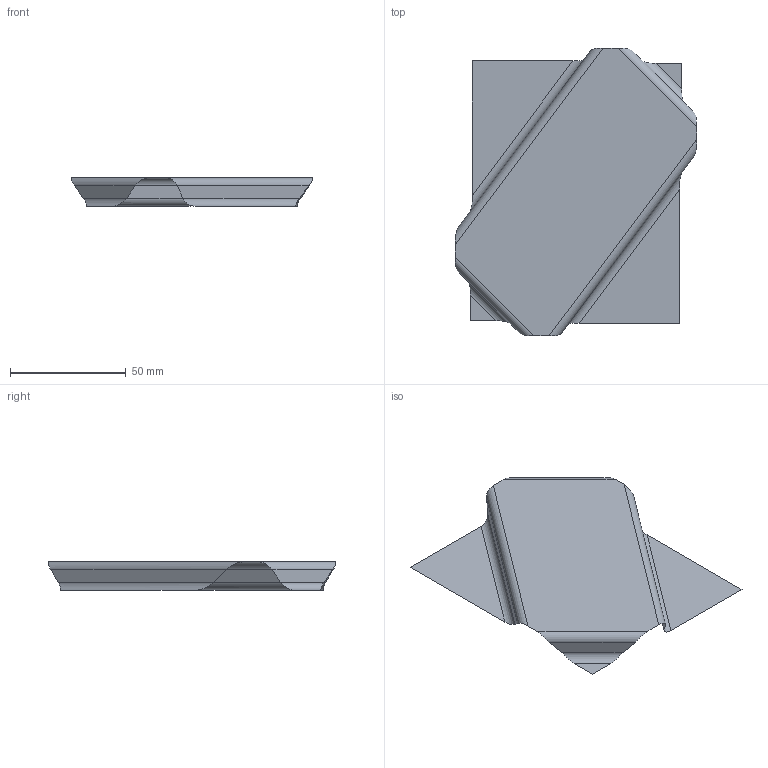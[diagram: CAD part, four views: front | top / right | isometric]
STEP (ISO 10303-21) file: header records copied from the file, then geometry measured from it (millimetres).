
FILE_DESCRIPTION(('CATIA V5 STEP Exchange'),'2;1');
FILE_NAME('C:\_Andres\UNIVERSIDAD\IQS\ASIGNATURAS\DAO\EXF\EXF-15161c\1original\Mas_Oliver_Ej03-chapa_v14.stp','2016-03-04T16:55:56+00:00',('none'),('none'),'CATIA Version 5 Release 20 SP 1 (IN-10)','CATIA V5 STEP AP203','none');
FILE_SCHEMA(('CONFIG_CONTROL_DESIGN'));
Length unit declared in the file: millimetre
Products named in the file (1): Mas_Oliver_Ej03-chapa_v14
Bounding box: 104.01 x 124.01 x 12.29 mm (x, y, z)
Surface area: 12938.1 mm2 (no closed solid volume)
Topology: 0 solids, 1 shells, 17 faces, 52 edges, 36 vertices
Faces by surface type: plane 9, cylinder 8
Entity records: 627 total; most frequent: CARTESIAN_POINT 198, ORIENTED_EDGE 68, DIRECTION 61, EDGE_CURVE 52, VERTEX_POINT 36, B_SPLINE_CURVE_WITH_KNOTS 27, VECTOR 25, LINE 25
